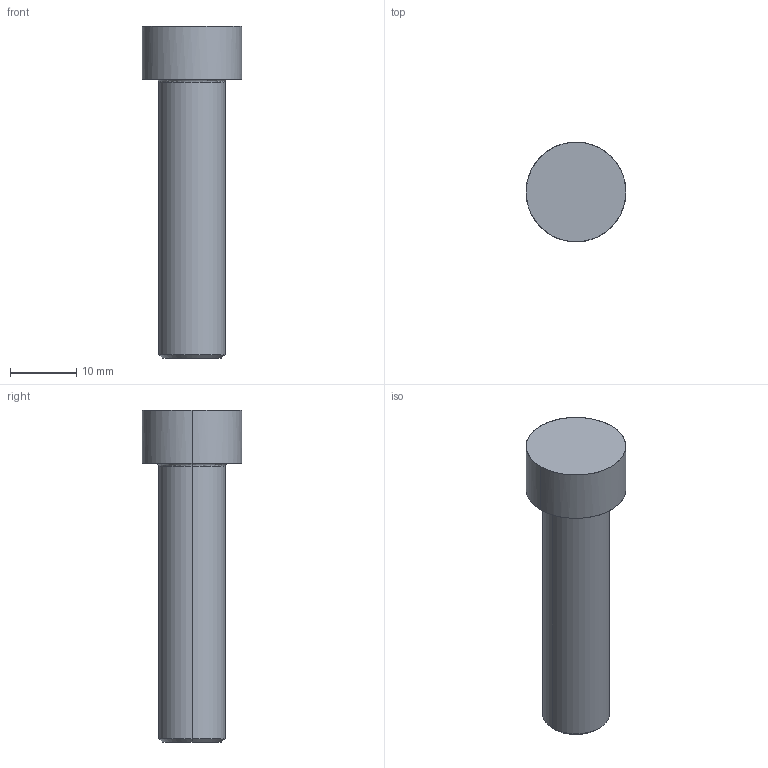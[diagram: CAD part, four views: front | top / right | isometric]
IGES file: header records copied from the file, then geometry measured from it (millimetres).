
Global section: file name: E:\UnigraphicsGraphicData\MISUMI_PRESS-PARTS\IGES\3d_hcup10-50_01334_r00.igs; native system: NX V5.0; preprocessor: UGS NX IGES V5.0; author: MISUMI; date: 20110105.160933; units: millimetre
Bounding box: 15 x 15 x 50 mm (x, y, z)
Surface area: 2034.8 mm2 (no closed solid volume)
Topology: 0 solids, 0 shells, 11 faces, 64 edges, 64 vertices
Faces by surface type: bspline 11
